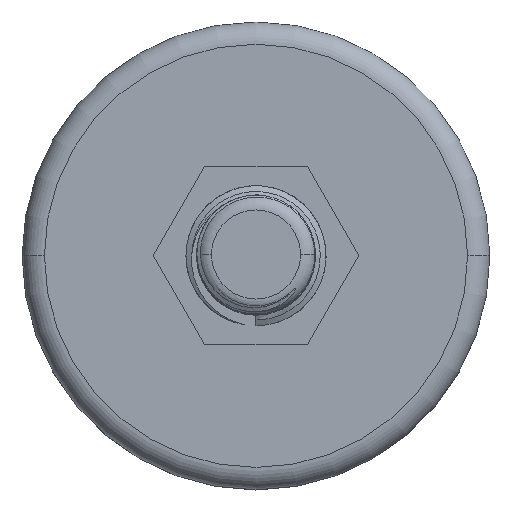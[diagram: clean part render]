
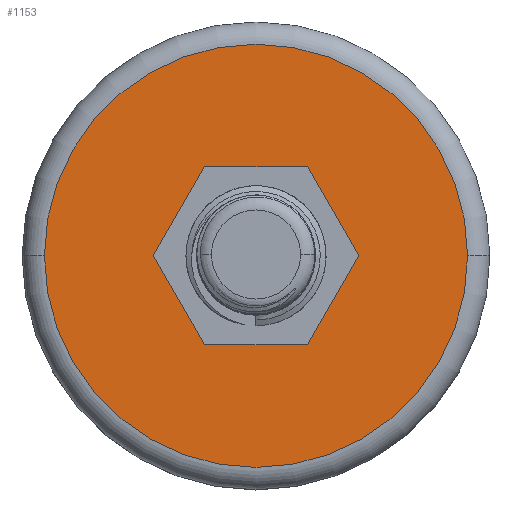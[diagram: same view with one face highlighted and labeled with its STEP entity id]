
A CAD part, top view. The second image highlights one B-rep face of the part: STEP entity #1153.
In plain terms, the highlighted planar face has unit normal (0, 0, 1).
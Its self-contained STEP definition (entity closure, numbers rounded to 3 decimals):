
#114 = LINE ( 'NONE', #9630, #7636 ) ;
#325 = CARTESIAN_POINT ( 'NONE',  ( -28.5, 0., 23. ) ) ;
#361 = EDGE_CURVE ( 'NONE', #2324, #2515, #2905, .T. ) ;
#550 = VECTOR ( 'NONE', #9455, 1000. ) ;
#553 = CARTESIAN_POINT ( 'NONE',  ( 0., 0., 23. ) ) ;
#646 = DIRECTION ( 'NONE',  ( 0., 0., 1. ) ) ;
#733 = DIRECTION ( 'NONE',  ( 1., 0., 0. ) ) ;
#907 = CARTESIAN_POINT ( 'NONE',  ( -6.928, 12., 23. ) ) ;
#991 = VECTOR ( 'NONE', #733, 1000. ) ;
#1022 = EDGE_CURVE ( 'NONE', #2221, #2324, #10112, .T. ) ;
#1023 = LINE ( 'NONE', #10521, #550 ) ;
#1153 = ADVANCED_FACE ( 'NONE', ( #6124, #6460 ), #1618, .T. ) ;
#1176 = EDGE_CURVE ( 'NONE', #8967, #2534, #8269, .T. ) ;
#1467 = CARTESIAN_POINT ( 'NONE',  ( 13.856, 0., 23. ) ) ;
#1618 = PLANE ( 'NONE',  #6657 ) ;
#1810 = CARTESIAN_POINT ( 'NONE',  ( -6.928, -12., 23. ) ) ;
#2064 = VERTEX_POINT ( 'NONE', #907 ) ;
#2100 = ORIENTED_EDGE ( 'NONE', *, *, #9424, .F. ) ;
#2221 = VERTEX_POINT ( 'NONE', #2375 ) ;
#2246 = ORIENTED_EDGE ( 'NONE', *, *, #1022, .F. ) ;
#2252 = CARTESIAN_POINT ( 'NONE',  ( 6.928, 12., 23. ) ) ;
#2324 = VERTEX_POINT ( 'NONE', #10281 ) ;
#2375 = CARTESIAN_POINT ( 'NONE',  ( -13.856, 0., 23. ) ) ;
#2515 = VERTEX_POINT ( 'NONE', #8175 ) ;
#2534 = VERTEX_POINT ( 'NONE', #3340 ) ;
#2574 = VERTEX_POINT ( 'NONE', #2252 ) ;
#2708 = VERTEX_POINT ( 'NONE', #1467 ) ;
#2905 = LINE ( 'NONE', #1810, #991 ) ;
#3176 = ORIENTED_EDGE ( 'NONE', *, *, #1176, .T. ) ;
#3235 = ORIENTED_EDGE ( 'NONE', *, *, #361, .F. ) ;
#3340 = CARTESIAN_POINT ( 'NONE',  ( 28.5, 0., 23. ) ) ;
#4156 = VECTOR ( 'NONE', #7962, 1000. ) ;
#4165 = VECTOR ( 'NONE', #5520, 1000. ) ;
#4349 = DIRECTION ( 'NONE',  ( -1., 0., 0. ) ) ;
#4498 = ORIENTED_EDGE ( 'NONE', *, *, #7362, .T. ) ;
#4532 = EDGE_CURVE ( 'NONE', #2515, #2708, #1023, .T. ) ;
#4834 = EDGE_CURVE ( 'NONE', #2064, #2221, #114, .T. ) ;
#4842 = ORIENTED_EDGE ( 'NONE', *, *, #6617, .F. ) ;
#4987 = CARTESIAN_POINT ( 'NONE',  ( 0., 0., 23. ) ) ;
#5294 = AXIS2_PLACEMENT_3D ( 'NONE', #4987, #646, #10136 ) ;
#5441 = CARTESIAN_POINT ( 'NONE',  ( 6.928, 12., 23. ) ) ;
#5520 = DIRECTION ( 'NONE',  ( -0.5, 0.866, 0. ) ) ;
#5711 = DIRECTION ( 'NONE',  ( 1., 0., 0. ) ) ;
#6124 = FACE_OUTER_BOUND ( 'NONE', #8759, .T. ) ;
#6460 = FACE_BOUND ( 'NONE', #7649, .T. ) ;
#6511 = LINE ( 'NONE', #5441, #9026 ) ;
#6530 = AXIS2_PLACEMENT_3D ( 'NONE', #7884, #6780, #5711 ) ;
#6590 = CARTESIAN_POINT ( 'NONE',  ( 13.856, 0., 23. ) ) ;
#6617 = EDGE_CURVE ( 'NONE', #2708, #2574, #7665, .T. ) ;
#6657 = AXIS2_PLACEMENT_3D ( 'NONE', #553, #10032, #8966 ) ;
#6780 = DIRECTION ( 'NONE',  ( 0., 0., 1. ) ) ;
#6899 = ORIENTED_EDGE ( 'NONE', *, *, #4532, .F. ) ;
#7362 = EDGE_CURVE ( 'NONE', #2534, #8967, #8945, .T. ) ;
#7636 = VECTOR ( 'NONE', #8551, 1000. ) ;
#7649 = EDGE_LOOP ( 'NONE', ( #4842, #6899, #3235, #2246, #9418, #2100 ) ) ;
#7665 = LINE ( 'NONE', #6590, #4165 ) ;
#7884 = CARTESIAN_POINT ( 'NONE',  ( 0., 0., 23. ) ) ;
#7962 = DIRECTION ( 'NONE',  ( 0.5, -0.866, 0. ) ) ;
#8175 = CARTESIAN_POINT ( 'NONE',  ( 6.928, -12., 23. ) ) ;
#8269 = CIRCLE ( 'NONE', #6530, 28.5 ) ;
#8551 = DIRECTION ( 'NONE',  ( -0.5, -0.866, 0. ) ) ;
#8759 = EDGE_LOOP ( 'NONE', ( #4498, #3176 ) ) ;
#8945 = CIRCLE ( 'NONE', #5294, 28.5 ) ;
#8966 = DIRECTION ( 'NONE',  ( 1., 0., 0. ) ) ;
#8967 = VERTEX_POINT ( 'NONE', #325 ) ;
#9026 = VECTOR ( 'NONE', #4349, 1000. ) ;
#9043 = CARTESIAN_POINT ( 'NONE',  ( -13.856, 0., 23. ) ) ;
#9418 = ORIENTED_EDGE ( 'NONE', *, *, #4834, .F. ) ;
#9424 = EDGE_CURVE ( 'NONE', #2574, #2064, #6511, .T. ) ;
#9455 = DIRECTION ( 'NONE',  ( 0.5, 0.866, 0. ) ) ;
#9630 = CARTESIAN_POINT ( 'NONE',  ( -6.928, 12., 23. ) ) ;
#10032 = DIRECTION ( 'NONE',  ( 0., 0., 1. ) ) ;
#10112 = LINE ( 'NONE', #9043, #4156 ) ;
#10136 = DIRECTION ( 'NONE',  ( 1., 0., 0. ) ) ;
#10281 = CARTESIAN_POINT ( 'NONE',  ( -6.928, -12., 23. ) ) ;
#10521 = CARTESIAN_POINT ( 'NONE',  ( 6.928, -12., 23. ) ) ;
